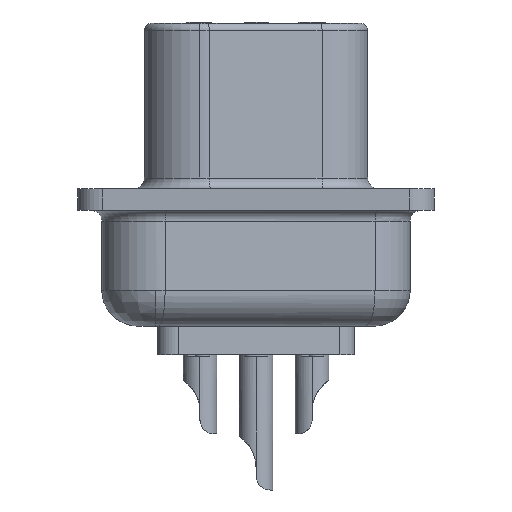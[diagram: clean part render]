
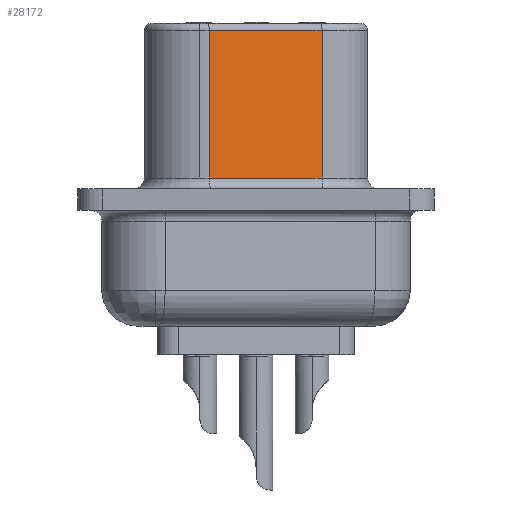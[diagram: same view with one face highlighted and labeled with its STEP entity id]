
A CAD part, left-side view. The second image highlights one B-rep face of the part: STEP entity #28172.
In plain terms, the highlighted planar face has unit normal (-0.985, -0.174, 0).
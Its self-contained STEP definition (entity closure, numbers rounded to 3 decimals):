
#2526 = VERTEX_POINT('',#2527);
#2527 = CARTESIAN_POINT('',(7.269,7.953,5.588));
#2542 = CYLINDRICAL_SURFACE('',#2543,1.956);
#2543 = AXIS2_PLACEMENT_3D('',#2544,#2545,#2546);
#2544 = CARTESIAN_POINT('',(9.195,8.293,5.842));
#2545 = DIRECTION('',(-0.,-0.,-1.));
#2546 = DIRECTION('',(-1.,0.,0.));
#2569 = CYLINDRICAL_SURFACE('',#2570,0.254);
#2570 = AXIS2_PLACEMENT_3D('',#2571,#2572,#2573);
#2571 = CARTESIAN_POINT('',(8.222,4.01,5.588));
#2572 = DIRECTION('',(0.174,-0.985,0.));
#2573 = DIRECTION('',(0.985,0.174,0.));
#2730 = VERTEX_POINT('',#2731);
#2731 = CARTESIAN_POINT('',(7.269,7.953,0.381));
#2758 = EDGE_CURVE('',#2526,#2730,#2759,.T.);
#2759 = SURFACE_CURVE('',#2760,(#2764,#2771),.PCURVE_S1.);
#2760 = LINE('',#2761,#2762);
#2761 = CARTESIAN_POINT('',(7.269,7.953,5.842));
#2762 = VECTOR('',#2763,1.);
#2763 = DIRECTION('',(-0.,-0.,-1.));
#2764 = PCURVE('',#2542,#2765);
#2765 = DEFINITIONAL_REPRESENTATION('',(#2766),#2770);
#2766 = LINE('',#2767,#2768);
#2767 = CARTESIAN_POINT('',(6.109,0.));
#2768 = VECTOR('',#2769,1.);
#2769 = DIRECTION('',(0.,1.));
#2770 = ( GEOMETRIC_REPRESENTATION_CONTEXT(2) 
PARAMETRIC_REPRESENTATION_CONTEXT() REPRESENTATION_CONTEXT('2D SPACE',''
  ) );
#2771 = PCURVE('',#2772,#2777);
#2772 = PLANE('',#2773);
#2773 = AXIS2_PLACEMENT_3D('',#2774,#2775,#2776);
#2774 = CARTESIAN_POINT('',(7.972,3.966,5.842));
#2775 = DIRECTION('',(0.985,0.174,-0.));
#2776 = DIRECTION('',(-0.174,0.985,0.));
#2777 = DEFINITIONAL_REPRESENTATION('',(#2778),#2782);
#2778 = LINE('',#2779,#2780);
#2779 = CARTESIAN_POINT('',(4.049,0.));
#2780 = VECTOR('',#2781,1.);
#2781 = DIRECTION('',(0.,-1.));
#2782 = ( GEOMETRIC_REPRESENTATION_CONTEXT(2) 
PARAMETRIC_REPRESENTATION_CONTEXT() REPRESENTATION_CONTEXT('2D SPACE',''
  ) );
#26672 = CYLINDRICAL_SURFACE('',#26673,0.381);
#26673 = AXIS2_PLACEMENT_3D('',#26674,#26675,#26676);
#26674 = CARTESIAN_POINT('',(7.597,3.9,0.381));
#26675 = DIRECTION('',(0.174,-0.985,0.));
#26676 = DIRECTION('',(0.985,0.174,0.));
#27647 = EDGE_CURVE('',#27648,#27650,#27652,.T.);
#27648 = VERTEX_POINT('',#27649);
#27649 = CARTESIAN_POINT('',(7.972,3.966,5.588));
#27650 = VERTEX_POINT('',#27651);
#27651 = CARTESIAN_POINT('',(7.972,3.966,0.381));
#27652 = SURFACE_CURVE('',#27653,(#27657,#27669),.PCURVE_S1.);
#27653 = LINE('',#27654,#27655);
#27654 = CARTESIAN_POINT('',(7.972,3.966,5.842));
#27655 = VECTOR('',#27656,1.);
#27656 = DIRECTION('',(-0.,-0.,-1.));
#27657 = PCURVE('',#27658,#27663);
#27658 = CYLINDRICAL_SURFACE('',#27659,1.956);
#27659 = AXIS2_PLACEMENT_3D('',#27660,#27661,#27662);
#27660 = CARTESIAN_POINT('',(9.898,4.305,5.842));
#27661 = DIRECTION('',(-0.,-0.,-1.));
#27662 = DIRECTION('',(-1.,0.,0.));
#27663 = DEFINITIONAL_REPRESENTATION('',(#27664),#27668);
#27664 = LINE('',#27665,#27666);
#27665 = CARTESIAN_POINT('',(6.109,0.));
#27666 = VECTOR('',#27667,1.);
#27667 = DIRECTION('',(0.,1.));
#27668 = ( GEOMETRIC_REPRESENTATION_CONTEXT(2) 
PARAMETRIC_REPRESENTATION_CONTEXT() REPRESENTATION_CONTEXT('2D SPACE',''
  ) );
#27669 = PCURVE('',#2772,#27670);
#27670 = DEFINITIONAL_REPRESENTATION('',(#27671),#27675);
#27671 = LINE('',#27672,#27673);
#27672 = CARTESIAN_POINT('',(0.,0.));
#27673 = VECTOR('',#27674,1.);
#27674 = DIRECTION('',(0.,-1.));
#27675 = ( GEOMETRIC_REPRESENTATION_CONTEXT(2) 
PARAMETRIC_REPRESENTATION_CONTEXT() REPRESENTATION_CONTEXT('2D SPACE',''
  ) );
#28172 = ADVANCED_FACE('',(#28173),#2772,.F.);
#28173 = FACE_BOUND('',#28174,.T.);
#28174 = EDGE_LOOP('',(#28175,#28176,#28197,#28198));
#28175 = ORIENTED_EDGE('',*,*,#2758,.T.);
#28176 = ORIENTED_EDGE('',*,*,#28177,.T.);
#28177 = EDGE_CURVE('',#2730,#27650,#28178,.T.);
#28178 = SURFACE_CURVE('',#28179,(#28183,#28190),.PCURVE_S1.);
#28179 = LINE('',#28180,#28181);
#28180 = CARTESIAN_POINT('',(7.972,3.966,0.381));
#28181 = VECTOR('',#28182,1.);
#28182 = DIRECTION('',(0.174,-0.985,0.));
#28183 = PCURVE('',#2772,#28184);
#28184 = DEFINITIONAL_REPRESENTATION('',(#28185),#28189);
#28185 = LINE('',#28186,#28187);
#28186 = CARTESIAN_POINT('',(0.,-5.461));
#28187 = VECTOR('',#28188,1.);
#28188 = DIRECTION('',(-1.,0.));
#28189 = ( GEOMETRIC_REPRESENTATION_CONTEXT(2) 
PARAMETRIC_REPRESENTATION_CONTEXT() REPRESENTATION_CONTEXT('2D SPACE',''
  ) );
#28190 = PCURVE('',#26672,#28191);
#28191 = DEFINITIONAL_REPRESENTATION('',(#28192),#28196);
#28192 = LINE('',#28193,#28194);
#28193 = CARTESIAN_POINT('',(6.283,0.));
#28194 = VECTOR('',#28195,1.);
#28195 = DIRECTION('',(0.,1.));
#28196 = ( GEOMETRIC_REPRESENTATION_CONTEXT(2) 
PARAMETRIC_REPRESENTATION_CONTEXT() REPRESENTATION_CONTEXT('2D SPACE',''
  ) );
#28197 = ORIENTED_EDGE('',*,*,#27647,.F.);
#28198 = ORIENTED_EDGE('',*,*,#28199,.T.);
#28199 = EDGE_CURVE('',#27648,#2526,#28200,.T.);
#28200 = SURFACE_CURVE('',#28201,(#28205,#28212),.PCURVE_S1.);
#28201 = LINE('',#28202,#28203);
#28202 = CARTESIAN_POINT('',(7.972,3.966,5.588));
#28203 = VECTOR('',#28204,1.);
#28204 = DIRECTION('',(-0.174,0.985,-0.));
#28205 = PCURVE('',#2772,#28206);
#28206 = DEFINITIONAL_REPRESENTATION('',(#28207),#28211);
#28207 = LINE('',#28208,#28209);
#28208 = CARTESIAN_POINT('',(0.,-0.254));
#28209 = VECTOR('',#28210,1.);
#28210 = DIRECTION('',(1.,0.));
#28211 = ( GEOMETRIC_REPRESENTATION_CONTEXT(2) 
PARAMETRIC_REPRESENTATION_CONTEXT() REPRESENTATION_CONTEXT('2D SPACE',''
  ) );
#28212 = PCURVE('',#2569,#28213);
#28213 = DEFINITIONAL_REPRESENTATION('',(#28214),#28218);
#28214 = LINE('',#28215,#28216);
#28215 = CARTESIAN_POINT('',(3.142,0.));
#28216 = VECTOR('',#28217,1.);
#28217 = DIRECTION('',(0.,-1.));
#28218 = ( GEOMETRIC_REPRESENTATION_CONTEXT(2) 
PARAMETRIC_REPRESENTATION_CONTEXT() REPRESENTATION_CONTEXT('2D SPACE',''
  ) );
